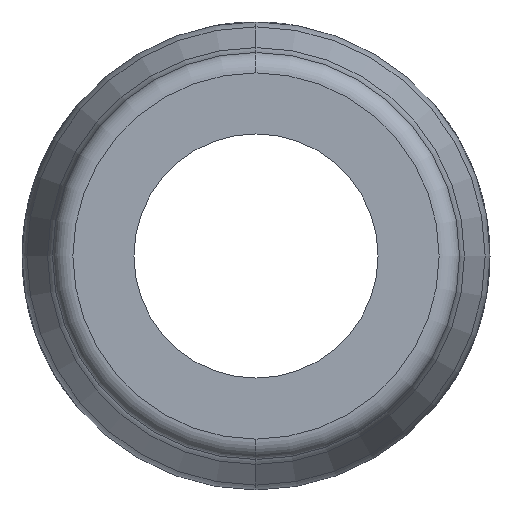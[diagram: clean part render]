
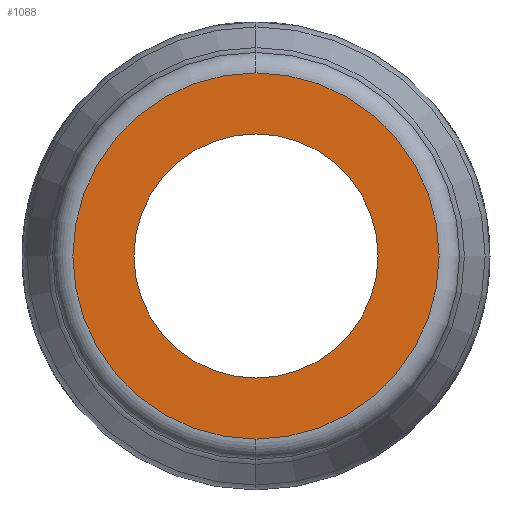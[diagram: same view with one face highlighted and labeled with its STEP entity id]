
A CAD part, left-side view. The second image highlights one B-rep face of the part: STEP entity #1088.
In plain terms, the highlighted planar face has unit normal (-1, 0, 0).
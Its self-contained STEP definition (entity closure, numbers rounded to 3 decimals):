
#20 = DIRECTION ( 'NONE',  ( -1., 0., 0. ) ) ;
#40 = AXIS2_PLACEMENT_3D ( 'NONE', #905, #962, #969 ) ;
#54 = DIRECTION ( 'NONE',  ( -1., 0., 0. ) ) ;
#59 = DIRECTION ( 'NONE',  ( 0., 0., 1. ) ) ;
#63 = VERTEX_POINT ( 'NONE', #376 ) ;
#274 = EDGE_CURVE ( 'NONE', #1384, #63, #641, .T. ) ;
#290 = AXIS2_PLACEMENT_3D ( 'NONE', #1283, #20, #369 ) ;
#353 = CARTESIAN_POINT ( 'NONE',  ( 0., 0., 6. ) ) ;
#369 = DIRECTION ( 'NONE',  ( 0., 0., -1. ) ) ;
#376 = CARTESIAN_POINT ( 'NONE',  ( 0., 0., 9. ) ) ;
#462 = CARTESIAN_POINT ( 'NONE',  ( 0., 0., -6. ) ) ;
#496 = CARTESIAN_POINT ( 'NONE',  ( 0., 0., 0. ) ) ;
#506 = DIRECTION ( 'NONE',  ( -1., 0., 0. ) ) ;
#515 = DIRECTION ( 'NONE',  ( 0., 0., 1. ) ) ;
#600 = FACE_OUTER_BOUND ( 'NONE', #1589, .T. ) ;
#624 = CARTESIAN_POINT ( 'NONE',  ( 0., 0., -9. ) ) ;
#641 = CIRCLE ( 'NONE', #290, 9. ) ;
#652 = DIRECTION ( 'NONE',  ( -1., 0., 0. ) ) ;
#800 = PLANE ( 'NONE',  #40 ) ;
#814 = ORIENTED_EDGE ( 'NONE', *, *, #1492, .F. ) ;
#846 = AXIS2_PLACEMENT_3D ( 'NONE', #496, #506, #515 ) ;
#905 = CARTESIAN_POINT ( 'NONE',  ( 0., 6., 0. ) ) ;
#943 = FACE_BOUND ( 'NONE', #1512, .T. ) ;
#954 = AXIS2_PLACEMENT_3D ( 'NONE', #1523, #54, #59 ) ;
#962 = DIRECTION ( 'NONE',  ( 1., 0., 0. ) ) ;
#969 = DIRECTION ( 'NONE',  ( 0., 0., -1. ) ) ;
#1003 = VERTEX_POINT ( 'NONE', #462 ) ;
#1020 = EDGE_CURVE ( 'NONE', #1003, #1362, #1404, .T. ) ;
#1088 = ADVANCED_FACE ( 'NONE', ( #600, #943 ), #800, .F. ) ;
#1283 = CARTESIAN_POINT ( 'NONE',  ( 0., 0., 0. ) ) ;
#1292 = ORIENTED_EDGE ( 'NONE', *, *, #274, .T. ) ;
#1361 = CIRCLE ( 'NONE', #1465, 9. ) ;
#1362 = VERTEX_POINT ( 'NONE', #353 ) ;
#1384 = VERTEX_POINT ( 'NONE', #624 ) ;
#1404 = CIRCLE ( 'NONE', #846, 6. ) ;
#1451 = CARTESIAN_POINT ( 'NONE',  ( 0., 0., 0. ) ) ;
#1465 = AXIS2_PLACEMENT_3D ( 'NONE', #1451, #652, #1575 ) ;
#1475 = CIRCLE ( 'NONE', #954, 6. ) ;
#1487 = ORIENTED_EDGE ( 'NONE', *, *, #1020, .F. ) ;
#1492 = EDGE_CURVE ( 'NONE', #1362, #1003, #1475, .T. ) ;
#1512 = EDGE_LOOP ( 'NONE', ( #814, #1487 ) ) ;
#1523 = CARTESIAN_POINT ( 'NONE',  ( 0., 0., 0. ) ) ;
#1575 = DIRECTION ( 'NONE',  ( 0., 0., -1. ) ) ;
#1589 = EDGE_LOOP ( 'NONE', ( #1292, #1648 ) ) ;
#1637 = EDGE_CURVE ( 'NONE', #63, #1384, #1361, .T. ) ;
#1648 = ORIENTED_EDGE ( 'NONE', *, *, #1637, .T. ) ;
